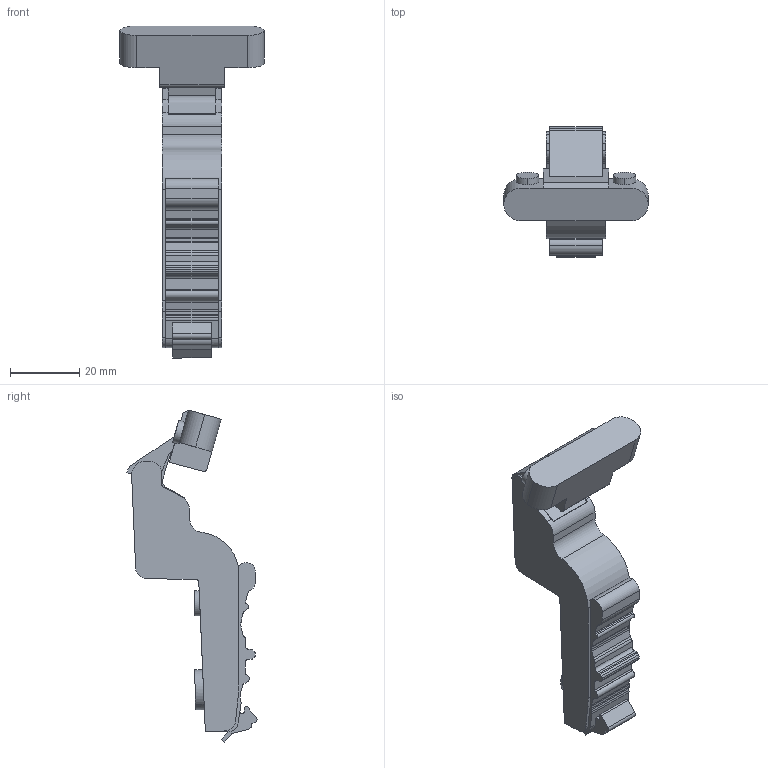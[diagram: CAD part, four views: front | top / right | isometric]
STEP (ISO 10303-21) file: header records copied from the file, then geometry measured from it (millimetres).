
FILE_DESCRIPTION (( 'STEP AP203' ), '1' );
FILE_NAME ('C82C678FA-DTC 3D open.STEP', '2024-09-06T06:16:00', ( '微软用户' ), ( '微软中国' ), 'SwSTEP 2.0', 'SolidWorks 2021', '' );
FILE_SCHEMA (( 'CONFIG_CONTROL_DESIGN' ));
Length unit declared in the file: millimetre
Products named in the file (1): C82C678FA-DTC 3D open
Bounding box: 41.6 x 37.44 x 95.6 mm (x, y, z)
Volume: 26731.6 mm3; surface area: 8749.2 mm2
Topology: 1 solids, 1 shells, 159 faces, 463 edges, 307 vertices
Faces by surface type: plane 86, cylinder 72, bspline 1
Entity records: 5587 total; most frequent: CARTESIAN_POINT 1185, ORIENTED_EDGE 926, DIRECTION 919, EDGE_CURVE 463, AXIS2_PLACEMENT_3D 310, VERTEX_POINT 307, VECTOR 299, LINE 299
